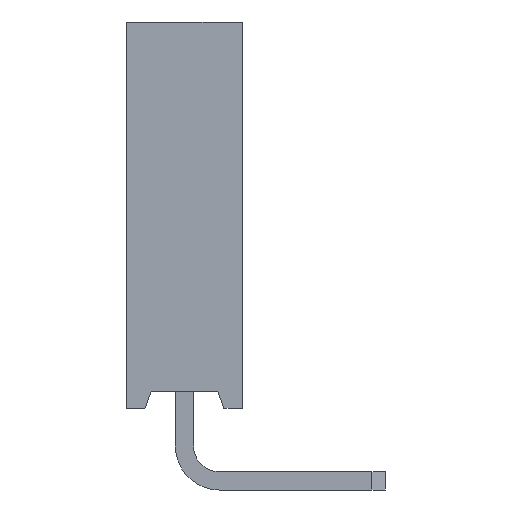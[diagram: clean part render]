
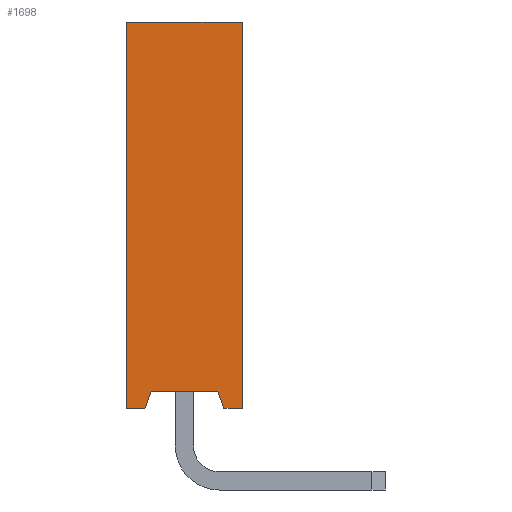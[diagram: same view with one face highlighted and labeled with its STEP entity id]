
A CAD part, left-side view. The second image highlights one B-rep face of the part: STEP entity #1698.
In plain terms, the highlighted planar face has unit normal (-1, 0, 0).
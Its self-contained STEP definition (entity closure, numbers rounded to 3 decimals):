
#23 = EDGE_CURVE ( 'NONE', #1416, #1389, #1404, .T. ) ;
#44 = DIRECTION ( 'NONE',  ( 0., 1., 0. ) ) ;
#120 = ORIENTED_EDGE ( 'NONE', *, *, #3270, .T. ) ;
#155 = EDGE_LOOP ( 'NONE', ( #1563, #961, #120, #2547, #394, #1766, #2693, #3170 ) ) ;
#207 = CARTESIAN_POINT ( 'NONE',  ( -7.87, 0., 1.6 ) ) ;
#235 = CARTESIAN_POINT ( 'NONE',  ( -7.87, 0.536, 1.975 ) ) ;
#303 = VERTEX_POINT ( 'NONE', #2560 ) ;
#353 = DIRECTION ( 'NONE',  ( 0., 0., 1. ) ) ;
#394 = ORIENTED_EDGE ( 'NONE', *, *, #1939, .T. ) ;
#490 = VECTOR ( 'NONE', #2314, 1000. ) ;
#619 = LINE ( 'NONE', #1295, #490 ) ;
#630 = EDGE_CURVE ( 'NONE', #303, #1416, #1569, .T. ) ;
#661 = CARTESIAN_POINT ( 'NONE',  ( -7.87, 0., 10.1 ) ) ;
#734 = CARTESIAN_POINT ( 'NONE',  ( -7.87, 0., 10.1 ) ) ;
#749 = VERTEX_POINT ( 'NONE', #1700 ) ;
#756 = AXIS2_PLACEMENT_3D ( 'NONE', #3681, #3363, #353 ) ;
#849 = VERTEX_POINT ( 'NONE', #2122 ) ;
#872 = DIRECTION ( 'NONE',  ( 0., -1., 0. ) ) ;
#960 = VECTOR ( 'NONE', #1283, 1000. ) ;
#961 = ORIENTED_EDGE ( 'NONE', *, *, #3934, .T. ) ;
#1017 = VECTOR ( 'NONE', #4030, 1000. ) ;
#1049 = VECTOR ( 'NONE', #44, 1000. ) ;
#1110 = VECTOR ( 'NONE', #2651, 1000. ) ;
#1180 = EDGE_CURVE ( 'NONE', #749, #3200, #2003, .T. ) ;
#1222 = VERTEX_POINT ( 'NONE', #4013 ) ;
#1243 = CARTESIAN_POINT ( 'NONE',  ( -7.87, 0.4, 1.6 ) ) ;
#1283 = DIRECTION ( 'NONE',  ( 0., -0.342, 0.94 ) ) ;
#1295 = CARTESIAN_POINT ( 'NONE',  ( -7.87, 2.54, 10.1 ) ) ;
#1389 = VERTEX_POINT ( 'NONE', #734 ) ;
#1404 = LINE ( 'NONE', #2746, #1017 ) ;
#1416 = VERTEX_POINT ( 'NONE', #207 ) ;
#1510 = VECTOR ( 'NONE', #872, 1000. ) ;
#1563 = ORIENTED_EDGE ( 'NONE', *, *, #4162, .T. ) ;
#1566 = DIRECTION ( 'NONE',  ( 0., -0.342, -0.94 ) ) ;
#1569 = LINE ( 'NONE', #1243, #1510 ) ;
#1666 = LINE ( 'NONE', #661, #1049 ) ;
#1698 = ADVANCED_FACE ( 'NONE', ( #2350 ), #1707, .T. ) ;
#1700 = CARTESIAN_POINT ( 'NONE',  ( -7.87, 2.14, 1.6 ) ) ;
#1707 = PLANE ( 'NONE',  #756 ) ;
#1766 = ORIENTED_EDGE ( 'NONE', *, *, #3312, .T. ) ;
#1905 = LINE ( 'NONE', #235, #2453 ) ;
#1939 = EDGE_CURVE ( 'NONE', #3200, #2136, #3375, .T. ) ;
#1967 = DIRECTION ( 'NONE',  ( 0., -1., 0. ) ) ;
#1984 = CARTESIAN_POINT ( 'NONE',  ( -7.87, 2.54, 1.6 ) ) ;
#2003 = LINE ( 'NONE', #2319, #960 ) ;
#2122 = CARTESIAN_POINT ( 'NONE',  ( -7.87, 2.54, 1.6 ) ) ;
#2136 = VERTEX_POINT ( 'NONE', #2755 ) ;
#2260 = LINE ( 'NONE', #1984, #2930 ) ;
#2314 = DIRECTION ( 'NONE',  ( 0., 0., -1. ) ) ;
#2319 = CARTESIAN_POINT ( 'NONE',  ( -7.87, 2.14, 1.6 ) ) ;
#2350 = FACE_OUTER_BOUND ( 'NONE', #155, .T. ) ;
#2453 = VECTOR ( 'NONE', #1566, 1000. ) ;
#2547 = ORIENTED_EDGE ( 'NONE', *, *, #1180, .T. ) ;
#2560 = CARTESIAN_POINT ( 'NONE',  ( -7.87, 0.4, 1.6 ) ) ;
#2651 = DIRECTION ( 'NONE',  ( 0., -1., 0. ) ) ;
#2693 = ORIENTED_EDGE ( 'NONE', *, *, #630, .T. ) ;
#2746 = CARTESIAN_POINT ( 'NONE',  ( -7.87, 0., 1.6 ) ) ;
#2755 = CARTESIAN_POINT ( 'NONE',  ( -7.87, 0.536, 1.975 ) ) ;
#2930 = VECTOR ( 'NONE', #1967, 1000. ) ;
#3170 = ORIENTED_EDGE ( 'NONE', *, *, #23, .T. ) ;
#3200 = VERTEX_POINT ( 'NONE', #3286 ) ;
#3270 = EDGE_CURVE ( 'NONE', #849, #749, #2260, .T. ) ;
#3286 = CARTESIAN_POINT ( 'NONE',  ( -7.87, 2.004, 1.975 ) ) ;
#3312 = EDGE_CURVE ( 'NONE', #2136, #303, #1905, .T. ) ;
#3363 = DIRECTION ( 'NONE',  ( -1., 0., 0. ) ) ;
#3375 = LINE ( 'NONE', #3675, #1110 ) ;
#3675 = CARTESIAN_POINT ( 'NONE',  ( -7.87, 2.004, 1.975 ) ) ;
#3681 = CARTESIAN_POINT ( 'NONE',  ( -7.87, 0., 0. ) ) ;
#3934 = EDGE_CURVE ( 'NONE', #1222, #849, #619, .T. ) ;
#4013 = CARTESIAN_POINT ( 'NONE',  ( -7.87, 2.54, 10.1 ) ) ;
#4030 = DIRECTION ( 'NONE',  ( 0., 0., 1. ) ) ;
#4162 = EDGE_CURVE ( 'NONE', #1389, #1222, #1666, .T. ) ;
